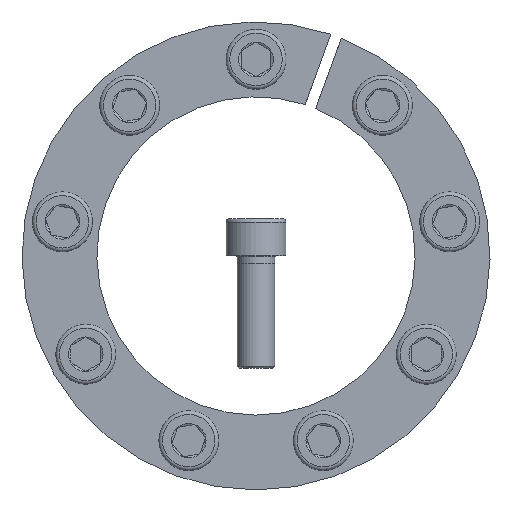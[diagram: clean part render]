
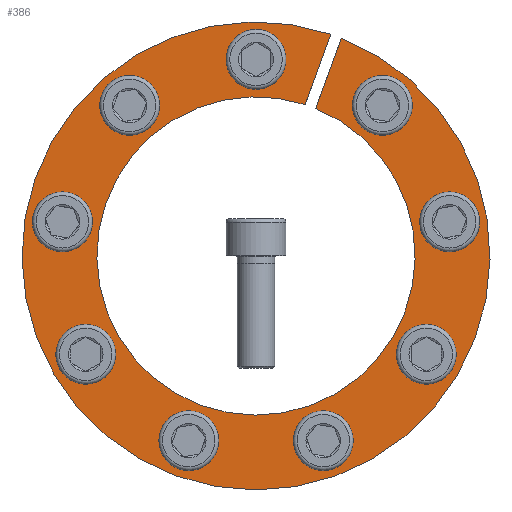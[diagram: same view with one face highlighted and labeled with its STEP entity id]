
A CAD part, front view. The second image highlights one B-rep face of the part: STEP entity #386.
In plain terms, the highlighted planar face has unit normal (0, -1, 0).
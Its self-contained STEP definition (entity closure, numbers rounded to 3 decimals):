
#386 = ADVANCED_FACE( '', ( #591, #592, #593, #594, #595, #596, #597, #598, #599, #600 ), #601, .F. );
#591 = FACE_BOUND( '', #765, .T. );
#592 = FACE_BOUND( '', #766, .T. );
#593 = FACE_BOUND( '', #767, .T. );
#594 = FACE_BOUND( '', #768, .T. );
#595 = FACE_OUTER_BOUND( '', #769, .T. );
#596 = FACE_BOUND( '', #770, .T. );
#597 = FACE_BOUND( '', #771, .T. );
#598 = FACE_BOUND( '', #772, .T. );
#599 = FACE_BOUND( '', #773, .T. );
#600 = FACE_BOUND( '', #774, .T. );
#601 = PLANE( '', #775 );
#765 = EDGE_LOOP( '', ( #988 ) );
#766 = EDGE_LOOP( '', ( #989 ) );
#767 = EDGE_LOOP( '', ( #990 ) );
#768 = EDGE_LOOP( '', ( #991 ) );
#769 = EDGE_LOOP( '', ( #992, #993, #994, #995 ) );
#770 = EDGE_LOOP( '', ( #996 ) );
#771 = EDGE_LOOP( '', ( #997 ) );
#772 = EDGE_LOOP( '', ( #998 ) );
#773 = EDGE_LOOP( '', ( #999 ) );
#774 = EDGE_LOOP( '', ( #1000 ) );
#775 = AXIS2_PLACEMENT_3D( '', #1001, #1002, #1003 );
#988 = ORIENTED_EDGE( '', *, *, #1336, .T. );
#989 = ORIENTED_EDGE( '', *, *, #1337, .T. );
#990 = ORIENTED_EDGE( '', *, *, #1338, .T. );
#991 = ORIENTED_EDGE( '', *, *, #1339, .T. );
#992 = ORIENTED_EDGE( '', *, *, #1334, .F. );
#993 = ORIENTED_EDGE( '', *, *, #1330, .F. );
#994 = ORIENTED_EDGE( '', *, *, #1340, .T. );
#995 = ORIENTED_EDGE( '', *, *, #1341, .F. );
#996 = ORIENTED_EDGE( '', *, *, #1342, .T. );
#997 = ORIENTED_EDGE( '', *, *, #1343, .T. );
#998 = ORIENTED_EDGE( '', *, *, #1344, .T. );
#999 = ORIENTED_EDGE( '', *, *, #1345, .T. );
#1000 = ORIENTED_EDGE( '', *, *, #1346, .T. );
#1001 = CARTESIAN_POINT( '', ( 0., 0., 62.5 ) );
#1002 = DIRECTION( '', ( 0., 1., 0. ) );
#1003 = DIRECTION( '', ( 0., 0., 1. ) );
#1330 = EDGE_CURVE( '', #1469, #1471, #1472, .T. );
#1334 = EDGE_CURVE( '', #1471, #1478, #1479, .T. );
#1336 = EDGE_CURVE( '', #1481, #1481, #1482, .T. );
#1337 = EDGE_CURVE( '', #1483, #1483, #1484, .T. );
#1338 = EDGE_CURVE( '', #1485, #1485, #1486, .T. );
#1339 = EDGE_CURVE( '', #1487, #1487, #1488, .T. );
#1340 = EDGE_CURVE( '', #1469, #1489, #1490, .T. );
#1341 = EDGE_CURVE( '', #1478, #1489, #1491, .T. );
#1342 = EDGE_CURVE( '', #1492, #1492, #1493, .T. );
#1343 = EDGE_CURVE( '', #1494, #1494, #1495, .T. );
#1344 = EDGE_CURVE( '', #1496, #1496, #1497, .T. );
#1345 = EDGE_CURVE( '', #1498, #1498, #1499, .T. );
#1346 = EDGE_CURVE( '', #1500, #1500, #1501, .T. );
#1469 = VERTEX_POINT( '', #1605 );
#1471 = VERTEX_POINT( '', #1608 );
#1472 = LINE( '', #1609, #1610 );
#1478 = VERTEX_POINT( '', #1618 );
#1479 = CIRCLE( '', #1619, 42.5 );
#1481 = VERTEX_POINT( '', #1622 );
#1482 = CIRCLE( '', #1623, 5. );
#1483 = VERTEX_POINT( '', #1624 );
#1484 = CIRCLE( '', #1625, 5. );
#1485 = VERTEX_POINT( '', #1626 );
#1486 = CIRCLE( '', #1627, 5. );
#1487 = VERTEX_POINT( '', #1628 );
#1488 = CIRCLE( '', #1629, 5. );
#1489 = VERTEX_POINT( '', #1630 );
#1490 = CIRCLE( '', #1631, 62.5 );
#1491 = LINE( '', #1632, #1633 );
#1492 = VERTEX_POINT( '', #1634 );
#1493 = CIRCLE( '', #1635, 5. );
#1494 = VERTEX_POINT( '', #1636 );
#1495 = CIRCLE( '', #1637, 5. );
#1496 = VERTEX_POINT( '', #1638 );
#1497 = CIRCLE( '', #1639, 5. );
#1498 = VERTEX_POINT( '', #1640 );
#1499 = CIRCLE( '', #1641, 5. );
#1500 = VERTEX_POINT( '', #1642 );
#1501 = CIRCLE( '', #1643, 5. );
#1605 = CARTESIAN_POINT( '', ( 19.961, 0., 59.227 ) );
#1608 = CARTESIAN_POINT( '', ( 13.117, 0., 40.425 ) );
#1609 = CARTESIAN_POINT( '', ( 19.967, 0., 59.244 ) );
#1610 = VECTOR( '', #1736, 1000. );
#1618 = CARTESIAN_POINT( '', ( 15.936, 0., 39.399 ) );
#1619 = AXIS2_PLACEMENT_3D( '', #1742, #1743, #1744 );
#1622 = CARTESIAN_POINT( '', ( -50.834, 0., 14.041 ) );
#1623 = AXIS2_PLACEMENT_3D( '', #1746, #1747, #1748 );
#1624 = CARTESIAN_POINT( '', ( -22.655, 0., -47.624 ) );
#1625 = AXIS2_PLACEMENT_3D( '', #1749, #1750, #1751 );
#1626 = CARTESIAN_POINT( '', ( 42.966, 0., -30.58 ) );
#1627 = AXIS2_PLACEMENT_3D( '', #1752, #1753, #1754 );
#1628 = CARTESIAN_POINT( '', ( 37.577, 0., 37.003 ) );
#1629 = AXIS2_PLACEMENT_3D( '', #1755, #1756, #1757 );
#1630 = CARTESIAN_POINT( '', ( 22.78, 0., 58.201 ) );
#1631 = AXIS2_PLACEMENT_3D( '', #1758, #1759, #1760 );
#1632 = CARTESIAN_POINT( '', ( 15.936, 0., 39.399 ) );
#1633 = VECTOR( '', #1761, 1000. );
#1634 = CARTESIAN_POINT( '', ( 5., 0., 52.5 ) );
#1635 = AXIS2_PLACEMENT_3D( '', #1762, #1763, #1764 );
#1636 = CARTESIAN_POINT( '', ( 52.571, 0., 4.192 ) );
#1637 = AXIS2_PLACEMENT_3D( '', #1765, #1766, #1767 );
#1638 = CARTESIAN_POINT( '', ( 13.258, 0., -51.044 ) );
#1639 = AXIS2_PLACEMENT_3D( '', #1768, #1769, #1770 );
#1640 = CARTESIAN_POINT( '', ( -47.966, 0., -21.92 ) );
#1641 = AXIS2_PLACEMENT_3D( '', #1771, #1772, #1773 );
#1642 = CARTESIAN_POINT( '', ( -29.916, 0., 43.431 ) );
#1643 = AXIS2_PLACEMENT_3D( '', #1774, #1775, #1776 );
#1736 = DIRECTION( '', ( -0.342, 0., -0.94 ) );
#1742 = CARTESIAN_POINT( '', ( 0., 0., 0. ) );
#1743 = DIRECTION( '', ( 0., -1., 0. ) );
#1744 = DIRECTION( '', ( 0., 0., -1. ) );
#1746 = CARTESIAN_POINT( '', ( -51.702, 0., 9.117 ) );
#1747 = DIRECTION( '', ( 0., 1., 0. ) );
#1748 = DIRECTION( '', ( 0.174, 0., 0.985 ) );
#1749 = CARTESIAN_POINT( '', ( -17.956, 0., -49.334 ) );
#1750 = DIRECTION( '', ( 0., 1., 0. ) );
#1751 = DIRECTION( '', ( -0.94, 0., 0.342 ) );
#1752 = CARTESIAN_POINT( '', ( 45.466, 0., -26.25 ) );
#1753 = DIRECTION( '', ( 0., 1., 0. ) );
#1754 = DIRECTION( '', ( -0.5, 0., -0.866 ) );
#1755 = CARTESIAN_POINT( '', ( 33.746, 0., 40.217 ) );
#1756 = DIRECTION( '', ( 0., 1., 0. ) );
#1757 = DIRECTION( '', ( 0.766, 0., -0.643 ) );
#1758 = CARTESIAN_POINT( '', ( 0., 0., 0. ) );
#1759 = DIRECTION( '', ( 0., -1., 0. ) );
#1760 = DIRECTION( '', ( 0., 0., -1. ) );
#1761 = DIRECTION( '', ( 0.342, 0., 0.94 ) );
#1762 = CARTESIAN_POINT( '', ( 0., 0., 52.5 ) );
#1763 = DIRECTION( '', ( 0., 1., 0. ) );
#1764 = DIRECTION( '', ( 1., 0., 0. ) );
#1765 = CARTESIAN_POINT( '', ( 51.702, 0., 9.117 ) );
#1766 = DIRECTION( '', ( 0., 1., 0. ) );
#1767 = DIRECTION( '', ( 0.174, 0., -0.985 ) );
#1768 = CARTESIAN_POINT( '', ( 17.956, 0., -49.334 ) );
#1769 = DIRECTION( '', ( 0., 1., 0. ) );
#1770 = DIRECTION( '', ( -0.94, 0., -0.342 ) );
#1771 = CARTESIAN_POINT( '', ( -45.466, 0., -26.25 ) );
#1772 = DIRECTION( '', ( 0., 1., 0. ) );
#1773 = DIRECTION( '', ( -0.5, 0., 0.866 ) );
#1774 = CARTESIAN_POINT( '', ( -33.746, 0., 40.217 ) );
#1775 = DIRECTION( '', ( 0., 1., 0. ) );
#1776 = DIRECTION( '', ( 0.766, 0., 0.643 ) );
